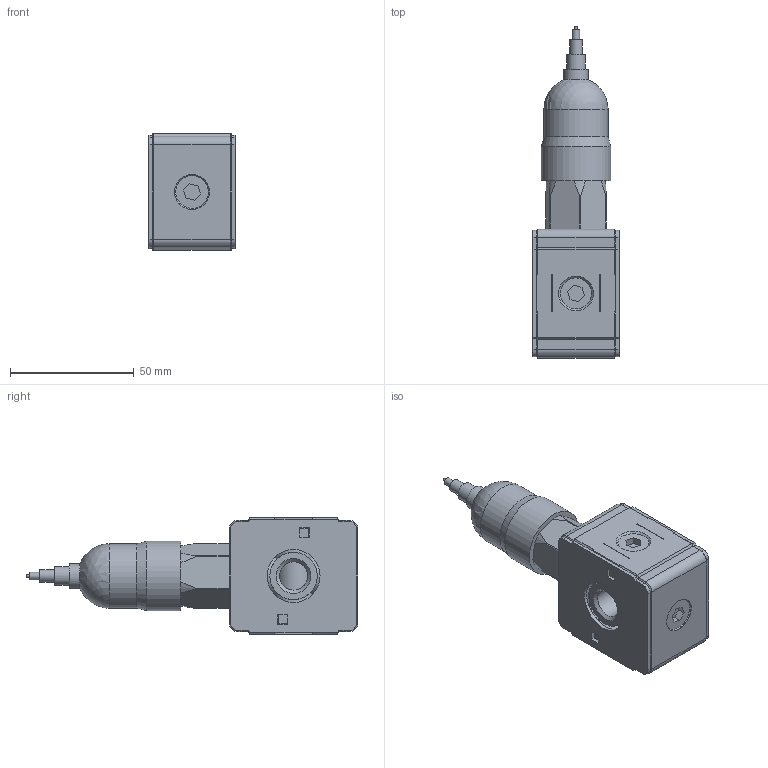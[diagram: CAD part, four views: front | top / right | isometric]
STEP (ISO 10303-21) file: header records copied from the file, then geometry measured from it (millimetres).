
FILE_DESCRIPTION((''),'2;1');
FILE_NAME('K:\ZEICHNG\Kunden Modelle\Multifix Steps\NL.2\Z.11 U.stp','2011-02-04T07:59:30',('DDruske'),(''),'Autodesk Inventor 2009','Autodesk Inventor 2009','');
FILE_SCHEMA(('AUTOMOTIVE_DESIGN { 1 0 10303 214 1 1 1 1 }'));
Length unit declared in the file: millimetre
Products named in the file (1): Bauteil1
Bounding box: 34.8 x 134 x 47 mm (x, y, z)
Volume: 61670.6 mm3; surface area: 37752.3 mm2
Topology: 1 solids, 5 shells, 432 faces, 1111 edges, 699 vertices
Faces by surface type: plane 270, cylinder 123, cone 14, torus 12, bspline 8, sphere 5
Full cylindrical faces by diameter (mm): 1 x1, 1.6 x2, 3 x1, 5 x1, 7.5 x1, 8 x2, 8.566 x1, 9.8 x1, 11.445 x2, 14 x1, 15.7 x1, 19.1 x1, 19.2 x1, 21 x2, 21.2 x1, 21.4 x2, 23 x2, 26 x1, 28 x1
Entity records: 13951 total; most frequent: CARTESIAN_POINT 3047, DIRECTION 2144, ORIENTED_EDGE 2116, EDGE_CURVE 1058, VECTOR 774, LINE 774, VERTEX_POINT 690, AXIS2_PLACEMENT_3D 685
